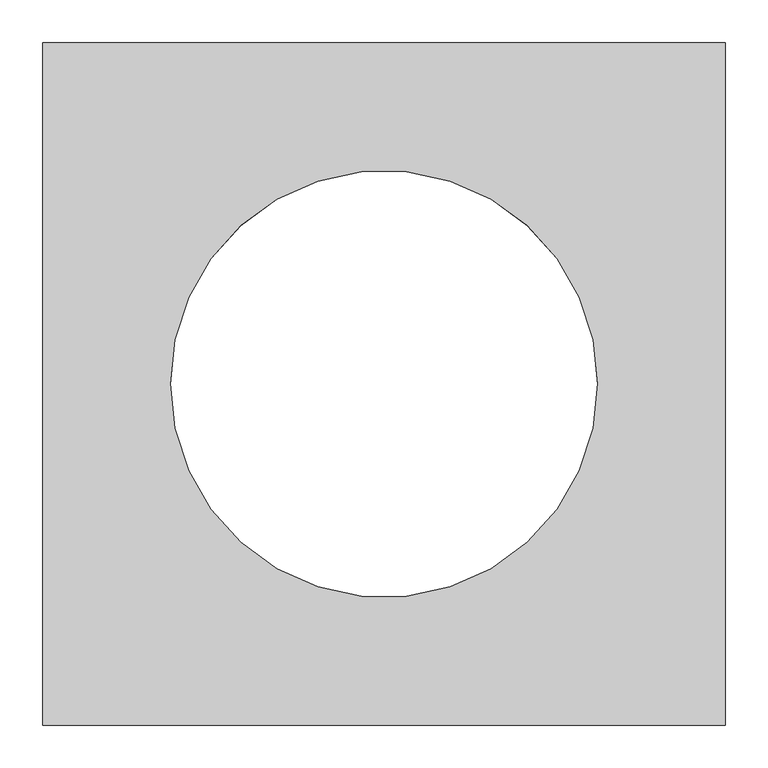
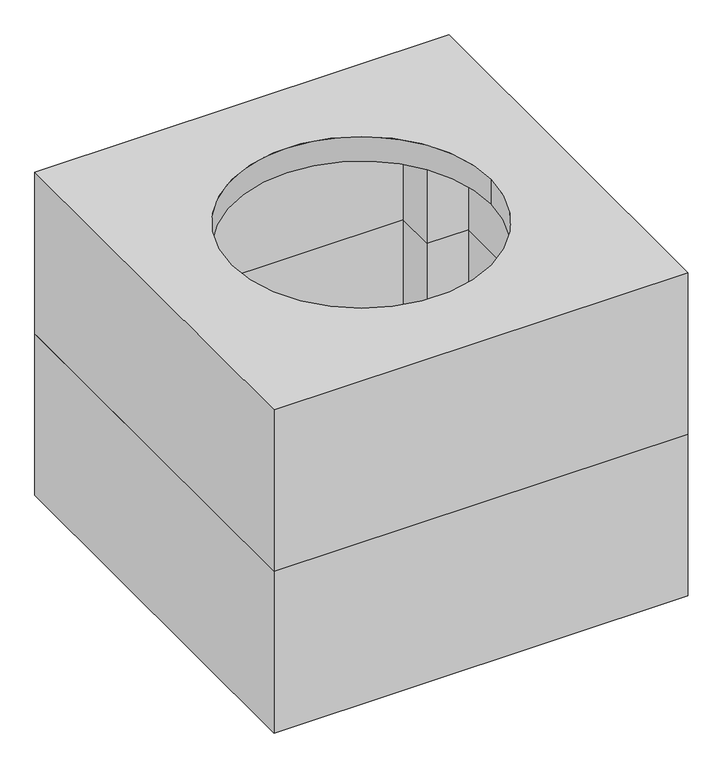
"""IFC4 building model written with IfcOpenShell, lengths in millimetres: proxy geometry, RSK C3 Box : RSK C3 8.6."""

from ifc_helpers import new_model, si_unit, frame, origin, place, context, project, spatial, polyline, circle_curve, source, transform, mapped, element, save
from ifc_brep_helpers import plane_surface, revolved_surface, advanced_brep


def generic_models_859088a2(model_context):
    return source(origin(), model_context, "Body", "AdvancedBrep", [
        advanced_brep(
        [(100.0, 100.0, 610.0), (20.0, 100.0, 610.0), (20.0, 700.0, 610.0), (100.0, 700.0, 610.0), (100.0, 780.0, 610.0), (700.0, 780.0, 610.0), (700.0, 700.0, 610.0), (780.0, 700.0, 610.0), (780.0, 100.0, 610.0), (700.0, 100.0, 610.0), (700.0, 20.0, 610.0), (100.0, 20.0, 610.0), (150.0, 400.0, 610.0), (650.0, 400.0, 610.0), (0.0, 0.0, 660.0), (800.0, 0.0, 660.0), (800.0, 800.0, 660.0), (0.0, 800.0, 660.0), (150.0, 400.0, 660.0), (650.0, 400.0, 660.0), (0.0, 0.0, 330.0), (800.0, 0.0, 330.0), (800.0, 800.0, 330.0), (0.0, 800.0, 330.0), (20.0, 100.0, 330.0), (100.0, 100.0, 330.0), (100.0, 20.0, 330.0), (700.0, 20.0, 330.0), (700.0, 100.0, 330.0), (780.0, 100.0, 330.0), (780.0, 700.0, 330.0), (700.0, 700.0, 330.0), (700.0, 780.0, 330.0), (100.0, 780.0, 330.0), (100.0, 700.0, 330.0), (20.0, 700.0, 330.0)],
        [
            (0, 1),
            (1, 2),
            (2, 3),
            (3, 4),
            (4, 5),
            (5, 6),
            (6, 7),
            (7, 8),
            (8, 9),
            (9, 10),
            (10, 11),
            (11, 0),
            (12, 13, circle_curve(frame((400.0, 400.0, 610.0), z_axis=(0.0, 0.0, 1.0), x_axis=(1.0, 0.0, 0.0)), 250.0)),
            (13, 12, circle_curve(frame((400.0, 400.0, 610.0), z_axis=(0.0, 0.0, 1.0), x_axis=(1.0, 0.0, 0.0)), 250.0)),
            (14, 15),
            (15, 16),
            (16, 17),
            (17, 14),
            (18, 19, circle_curve(frame((400.0, 400.0, 660.0), z_axis=(0.0, 0.0, -1.0), x_axis=(1.0, 0.0, 0.0)), 250.0)),
            (19, 18, circle_curve(frame((400.0, 400.0, 660.0), z_axis=(0.0, 0.0, -1.0), x_axis=(1.0, 0.0, 0.0)), 250.0)),
            (14, 20),
            (20, 21),
            (21, 15),
            (21, 22),
            (22, 16),
            (22, 23),
            (23, 17),
            (13, 19),
            (18, 12),
            (23, 20),
            (24, 25),
            (25, 26),
            (26, 27),
            (27, 28),
            (28, 29),
            (29, 30),
            (30, 31),
            (31, 32),
            (32, 33),
            (33, 34),
            (34, 35),
            (35, 24),
            (25, 0),
            (11, 26),
            (24, 1),
            (35, 2),
            (34, 3),
            (33, 4),
            (32, 5),
            (31, 6),
            (30, 7),
            (29, 8),
            (28, 9),
            (27, 10),
        ],
        [
            plane_surface(frame((800.0, 0.0, 610.0), z_axis=(0.0, 0.0, -1.0), x_axis=(1.0, 0.0, 0.0))),
            plane_surface(frame((800.0, 0.0, 660.0), z_axis=(0.0, 0.0, 1.0), x_axis=(-1.0, 0.0, 0.0))),
            plane_surface(frame((0.0, 0.0, 610.0), z_axis=(0.0, -1.0, 0.0), x_axis=(0.0, 0.0, 1.0))),
            plane_surface(frame((800.0, 0.0, 610.0), z_axis=(1.0, 0.0, 0.0), x_axis=(0.0, 0.0, 1.0))),
            plane_surface(frame((800.0, 800.0, 610.0), z_axis=(0.0, 1.0, 0.0), x_axis=(0.0, 0.0, 1.0))),
            revolved_surface(polyline([(650.0, 400.0, 660.0), (650.0, 400.0, 610.0)]), (400.0, 400.0, 660.0), (0.0, 0.0, 1.0)),
            plane_surface(frame((0.0, 800.0, 610.0), z_axis=(-1.0, 0.0, 0.0), x_axis=(0.0, 0.0, 1.0))),
            plane_surface(frame((800.0, 0.0, 330.0), z_axis=(0.0, 0.0, -1.0), x_axis=(0.0, 1.0, 0.0))),
            plane_surface(frame((100.0, 20.0, 330.0), z_axis=(1.0, 0.0, 0.0), x_axis=(0.0, 0.0, 1.0))),
            plane_surface(frame((100.0, 100.0, 330.0), z_axis=(0.0, 1.0, 0.0), x_axis=(0.0, 0.0, 1.0))),
            plane_surface(frame((20.0, 100.0, 330.0), z_axis=(1.0, 0.0, 0.0), x_axis=(0.0, 0.0, 1.0))),
            plane_surface(frame((20.0, 700.0, 330.0), z_axis=(0.0, -1.0, 0.0), x_axis=(0.0, 0.0, 1.0))),
            plane_surface(frame((100.0, 700.0, 330.0), z_axis=(1.0, 0.0, 0.0), x_axis=(0.0, 0.0, 1.0))),
            plane_surface(frame((100.0, 780.0, 330.0), z_axis=(0.0, -1.0, 0.0), x_axis=(0.0, 0.0, 1.0))),
            plane_surface(frame((700.0, 780.0, 330.0), z_axis=(-1.0, 0.0, 0.0), x_axis=(0.0, 0.0, 1.0))),
            plane_surface(frame((700.0, 700.0, 330.0), z_axis=(0.0, -1.0, 0.0), x_axis=(0.0, 0.0, 1.0))),
            plane_surface(frame((780.0, 700.0, 330.0), z_axis=(-1.0, 0.0, 0.0), x_axis=(0.0, 0.0, 1.0))),
            plane_surface(frame((780.0, 100.0, 330.0), z_axis=(0.0, 1.0, 0.0), x_axis=(0.0, 0.0, 1.0))),
            plane_surface(frame((700.0, 100.0, 330.0), z_axis=(-1.0, 0.0, 0.0), x_axis=(0.0, 0.0, 1.0))),
            plane_surface(frame((700.0, 20.0, 330.0), z_axis=(0.0, 1.0, 0.0), x_axis=(0.0, 0.0, 1.0))),
        ],
        [
            (0, [[1, 2, 3, 4, 5, 6, 7, 8, 9, 10, 11, 12], [13, 14]]),
            (1, [[15, 16, 17, 18], [19, 20]]),
            (2, [[21, 22, 23, -15]]),
            (3, [[24, 25, -16, -23]]),
            (4, [[26, 27, -17, -25]]),
            (5, [[28, -19, 29, -14]]),
            (5, [[-29, -20, -28, -13]]),
            (6, [[30, -21, -18, -27]]),
            (7, [[-22, -30, -26, -24], [31, 32, 33, 34, 35, 36, 37, 38, 39, 40, 41, 42]]),
            (8, [[43, -12, 44, -32]]),
            (9, [[45, -1, -43, -31]]),
            (10, [[46, -2, -45, -42]]),
            (11, [[47, -3, -46, -41]]),
            (12, [[48, -4, -47, -40]]),
            (13, [[49, -5, -48, -39]]),
            (14, [[50, -6, -49, -38]]),
            (15, [[51, -7, -50, -37]]),
            (16, [[52, -8, -51, -36]]),
            (17, [[53, -9, -52, -35]]),
            (18, [[54, -10, -53, -34]]),
            (19, [[-44, -11, -54, -33]]),
        ],
    ),
        advanced_brep(
        [(100.0, 100.0, 50.0), (100.0, 20.0, 50.0), (700.0, 20.0, 50.0), (700.0, 100.0, 50.0), (780.0, 100.0, 50.0), (780.0, 700.0, 50.0), (700.0, 700.0, 50.0), (700.0, 780.0, 50.0), (100.0, 780.0, 50.0), (100.0, 700.0, 50.0), (20.0, 700.0, 50.0), (20.0, 100.0, 50.0), (150.0, 400.0, 50.0), (650.0, 400.0, 50.0), (0.0, 0.0, 0.0), (0.0, 800.0, 0.0), (800.0, 800.0, 0.0), (800.0, 0.0, 0.0), (150.0, 400.0, 0.0), (650.0, 400.0, 0.0), (800.0, 0.0, 330.0), (0.0, 0.0, 330.0), (800.0, 800.0, 330.0), (0.0, 800.0, 330.0), (20.0, 100.0, 330.0), (20.0, 700.0, 330.0), (100.0, 700.0, 330.0), (100.0, 780.0, 330.0), (700.0, 780.0, 330.0), (700.0, 700.0, 330.0), (780.0, 700.0, 330.0), (780.0, 100.0, 330.0), (700.0, 100.0, 330.0), (700.0, 20.0, 330.0), (100.0, 20.0, 330.0), (100.0, 100.0, 330.0)],
        [
            (0, 1),
            (1, 2),
            (2, 3),
            (3, 4),
            (4, 5),
            (5, 6),
            (6, 7),
            (7, 8),
            (8, 9),
            (9, 10),
            (10, 11),
            (11, 0),
            (12, 13, circle_curve(frame((400.0, 400.0, 50.0), z_axis=(0.0, 0.0, -1.0), x_axis=(1.0, 0.0, 0.0)), 250.0)),
            (13, 12, circle_curve(frame((400.0, 400.0, 50.0), z_axis=(0.0, 0.0, -1.0), x_axis=(1.0, 0.0, 0.0)), 250.0)),
            (14, 15),
            (15, 16),
            (16, 17),
            (17, 14),
            (18, 19, circle_curve(frame((400.0, 400.0, 0.0), z_axis=(0.0, 0.0, 1.0), x_axis=(1.0, 0.0, 0.0)), 250.0)),
            (19, 18, circle_curve(frame((400.0, 400.0, 0.0), z_axis=(0.0, 0.0, 1.0), x_axis=(1.0, 0.0, 0.0)), 250.0)),
            (17, 20),
            (20, 21),
            (21, 14),
            (16, 22),
            (22, 20),
            (15, 23),
            (23, 22),
            (12, 18),
            (19, 13),
            (21, 23),
            (24, 25),
            (25, 26),
            (26, 27),
            (27, 28),
            (28, 29),
            (29, 30),
            (30, 31),
            (31, 32),
            (32, 33),
            (33, 34),
            (34, 35),
            (35, 24),
            (34, 1),
            (0, 35),
            (11, 24),
            (10, 25),
            (9, 26),
            (8, 27),
            (7, 28),
            (6, 29),
            (5, 30),
            (4, 31),
            (3, 32),
            (2, 33),
        ],
        [
            plane_surface(frame((800.0, 0.0, 50.0), z_axis=(0.0, 0.0, 1.0), x_axis=(1.0, 0.0, 0.0))),
            plane_surface(frame((800.0, 0.0, 0.0), z_axis=(0.0, 0.0, -1.0), x_axis=(-1.0, 0.0, 0.0))),
            plane_surface(frame((0.0, 0.0, 50.0), z_axis=(0.0, -1.0, 0.0), x_axis=(0.0, 0.0, -1.0))),
            plane_surface(frame((800.0, 0.0, 50.0), z_axis=(1.0, 0.0, 0.0), x_axis=(0.0, 0.0, -1.0))),
            plane_surface(frame((800.0, 800.0, 50.0), z_axis=(0.0, 1.0, 0.0), x_axis=(0.0, 0.0, -1.0))),
            revolved_surface(polyline([(650.0, 400.0, 0.0), (650.0, 400.0, 50.0)]), (400.0, 400.0, 0.0), (0.0, 0.0, -1.0)),
            plane_surface(frame((0.0, 800.0, 50.0), z_axis=(-1.0, 0.0, 0.0), x_axis=(0.0, 0.0, -1.0))),
            plane_surface(frame((800.0, 0.0, 330.0), z_axis=(0.0, 0.0, 1.0), x_axis=(0.0, 1.0, 0.0))),
            plane_surface(frame((100.0, 20.0, 330.0), z_axis=(1.0, 0.0, 0.0), x_axis=(0.0, 0.0, -1.0))),
            plane_surface(frame((100.0, 100.0, 330.0), z_axis=(0.0, 1.0, 0.0), x_axis=(0.0, 0.0, -1.0))),
            plane_surface(frame((20.0, 100.0, 330.0), z_axis=(1.0, 0.0, 0.0), x_axis=(0.0, 0.0, -1.0))),
            plane_surface(frame((20.0, 700.0, 330.0), z_axis=(0.0, -1.0, 0.0), x_axis=(0.0, 0.0, -1.0))),
            plane_surface(frame((100.0, 700.0, 330.0), z_axis=(1.0, 0.0, 0.0), x_axis=(0.0, 0.0, -1.0))),
            plane_surface(frame((100.0, 780.0, 330.0), z_axis=(0.0, -1.0, 0.0), x_axis=(0.0, 0.0, -1.0))),
            plane_surface(frame((700.0, 780.0, 330.0), z_axis=(-1.0, 0.0, 0.0), x_axis=(0.0, 0.0, -1.0))),
            plane_surface(frame((700.0, 700.0, 330.0), z_axis=(0.0, -1.0, 0.0), x_axis=(0.0, 0.0, -1.0))),
            plane_surface(frame((780.0, 700.0, 330.0), z_axis=(-1.0, 0.0, 0.0), x_axis=(0.0, 0.0, -1.0))),
            plane_surface(frame((780.0, 100.0, 330.0), z_axis=(0.0, 1.0, 0.0), x_axis=(0.0, 0.0, -1.0))),
            plane_surface(frame((700.0, 100.0, 330.0), z_axis=(-1.0, 0.0, 0.0), x_axis=(0.0, 0.0, -1.0))),
            plane_surface(frame((700.0, 20.0, 330.0), z_axis=(0.0, 1.0, 0.0), x_axis=(0.0, 0.0, -1.0))),
        ],
        [
            (0, [[1, 2, 3, 4, 5, 6, 7, 8, 9, 10, 11, 12], [13, 14]]),
            (1, [[15, 16, 17, 18], [19, 20]]),
            (2, [[-18, 21, 22, 23]]),
            (3, [[-21, -17, 24, 25]]),
            (4, [[-24, -16, 26, 27]]),
            (5, [[-13, 28, -20, 29]]),
            (5, [[-14, -29, -19, -28]]),
            (6, [[-26, -15, -23, 30]]),
            (7, [[-25, -27, -30, -22], [31, 32, 33, 34, 35, 36, 37, 38, 39, 40, 41, 42]]),
            (8, [[-41, 43, -1, 44]]),
            (9, [[-42, -44, -12, 45]]),
            (10, [[-31, -45, -11, 46]]),
            (11, [[-32, -46, -10, 47]]),
            (12, [[-33, -47, -9, 48]]),
            (13, [[-34, -48, -8, 49]]),
            (14, [[-35, -49, -7, 50]]),
            (15, [[-36, -50, -6, 51]]),
            (16, [[-37, -51, -5, 52]]),
            (17, [[-38, -52, -4, 53]]),
            (18, [[-39, -53, -3, 54]]),
            (19, [[-40, -54, -2, -43]]),
        ],
    ),
    ])


if __name__ == "__main__":
    model = new_model("IFC4")
    model_context = context("Model", 3, world=origin())
    ifc_project = project(units=[si_unit("LENGTHUNIT", "METRE", prefix="MILLI")], contexts=[model_context])
    site = spatial("IfcSite", under=ifc_project)
    building = spatial("IfcBuilding", under=site)
    placement = place(None, origin())
    generic_models_shape = generic_models_859088a2(model_context)
    element("IfcBuildingElementProxy", 1, Name="RSK C3 Box : RSK C3 8.6", ObjectType="RSK C3 Box : RSK C3 8.6", at=placement, inside=building, context=model_context, shape_type="MappedRepresentation", body=[
        mapped(generic_models_shape, transform((0.0, 0.0, 0.0), x_axis=(1.0, 0.0, 0.0), y_axis=(0.0, 1.0, 0.0), z_axis=(0.0, 0.0, 1.0))),
    ])
    save(model, "model.ifc")
